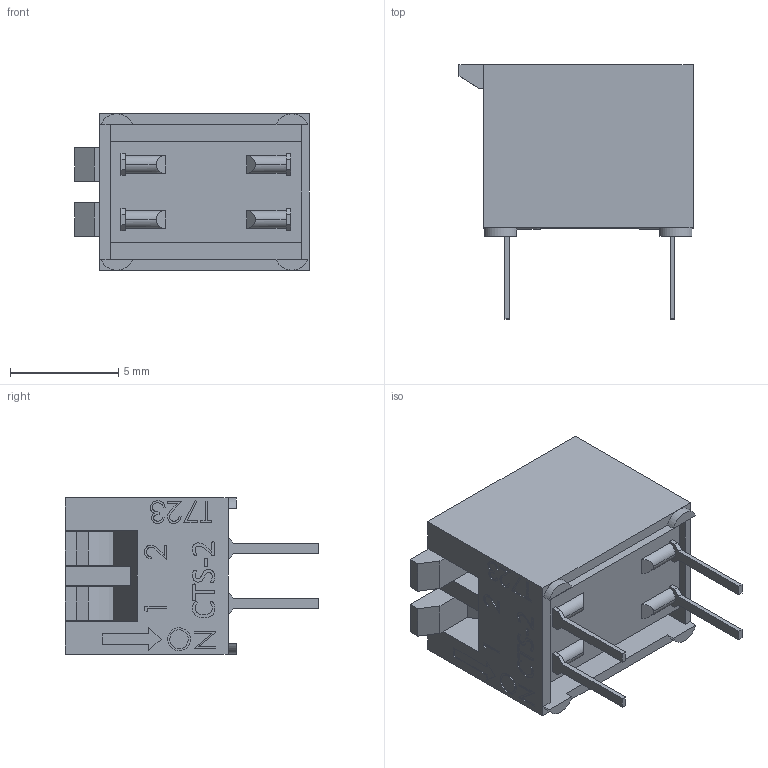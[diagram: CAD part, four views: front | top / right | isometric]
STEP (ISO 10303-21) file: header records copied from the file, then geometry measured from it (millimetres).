
FILE_DESCRIPTION (( 'STEP AP214' ), '1' );
FILE_NAME ('194-2MS.STEP', '2019-05-24T05:47:51', ( '' ), ( '' ), 'SwSTEP 2.0', 'SolidWorks 2019', '' );
FILE_SCHEMA (( 'AUTOMOTIVE_DESIGN' ));
Length unit declared in the file: millimetre
Products named in the file (4): 194-2MS; 194-40-102; 193-56-001; 194-2 pole assembly
Assembly tree (4 placements, depth 2):
  194-2MS
    194-40-102
    194-2 pole assembly
    193-56-001  x2
Bounding box: 10.79 x 11.71 x 7.21 mm (x, y, z)
Volume: 400.8 mm3; surface area: 916.6 mm2
Topology: 4 solids, 4 shells, 277 faces, 755 edges, 502 vertices
Faces by surface type: plane 178, bspline 77, cylinder 22
Entity records: 14383 total; most frequent: CARTESIAN_POINT 6300, ORIENTED_EDGE 1450, DIRECTION 985, EDGE_CURVE 725, LINE 531, VECTOR 531, VERTEX_POINT 482, EDGE_LOOP 285
